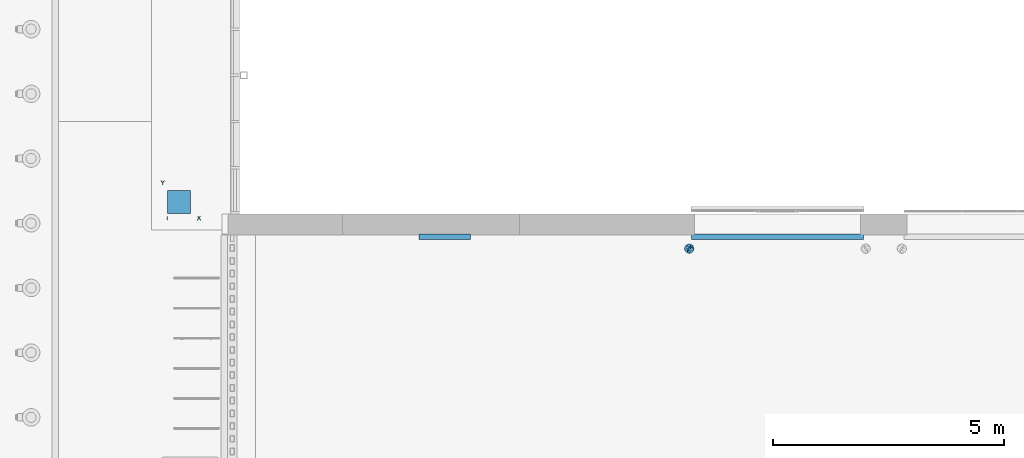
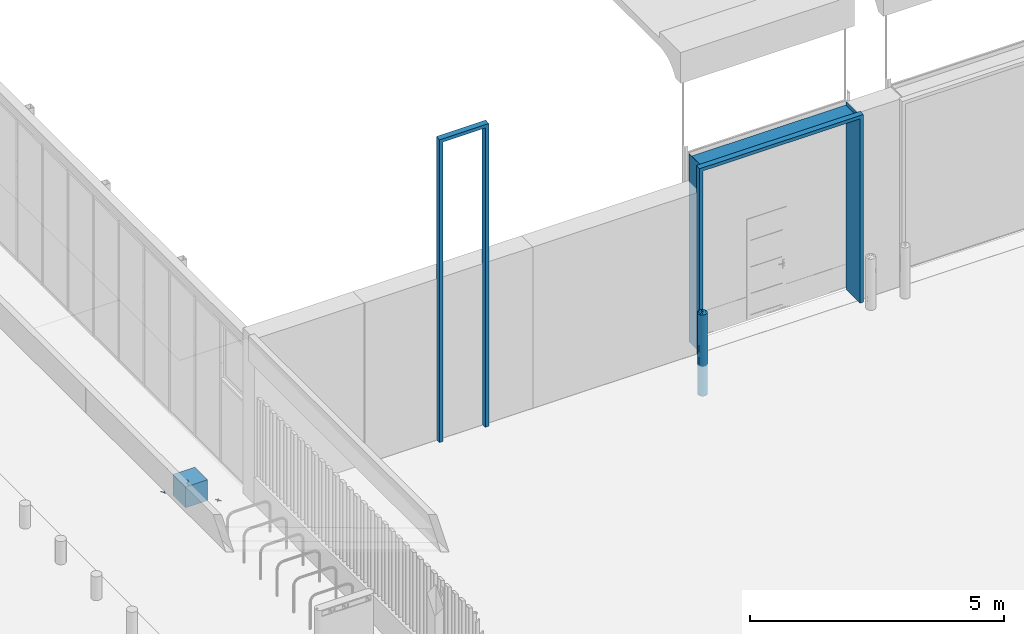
# One storey, part 40 of 77: 4 discrete accessories.
"""IFC2X3 building model written with IfcOpenShell, lengths in millimetres."""

from ifc_helpers import new_model, entity, si_unit, converted_unit, derived_unit, direction, frame, frame_2d, origin, place, context, subcontext, project, spatial, polyline, rectangle, outline, extrude, faceted_brep, source, transform, mapped, material, type_object, type_shapes, element, save


model = new_model("IFC2X3")

# Units and contexts
model_context = context("Model", 3, precision=0.01, world=origin(), true_north=direction((6.12303176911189e-17, 1.0)))
body_context = subcontext(model_context, "Body", "Model", "MODEL_VIEW")
ifc_project = project(units=[si_unit("LENGTHUNIT", "METRE", prefix="MILLI"), si_unit("AREAUNIT", "SQUARE_METRE"), si_unit("VOLUMEUNIT", "CUBIC_METRE"), converted_unit("PLANEANGLEUNIT", "DEGREE", entity("IfcRatioMeasure", 0.0174532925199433), si_unit("PLANEANGLEUNIT", "RADIAN"), dimensions=[0, 0, 0, 0, 0, 0, 0]), si_unit("MASSUNIT", "GRAM", prefix="KILO"), derived_unit("MASSDENSITYUNIT", [(si_unit("MASSUNIT", "GRAM", prefix="KILO"), 1), (si_unit("LENGTHUNIT", "METRE"), -3)]), si_unit("TIMEUNIT", "SECOND"), si_unit("FREQUENCYUNIT", "HERTZ"), si_unit("THERMODYNAMICTEMPERATUREUNIT", "DEGREE_CELSIUS"), derived_unit("THERMALTRANSMITTANCEUNIT", [(si_unit("MASSUNIT", "GRAM", prefix="KILO"), 1), (si_unit("THERMODYNAMICTEMPERATUREUNIT", "KELVIN"), -1), (si_unit("TIMEUNIT", "SECOND"), -3)]), derived_unit("VOLUMETRICFLOWRATEUNIT", [(si_unit("LENGTHUNIT", "METRE"), 3), (si_unit("TIMEUNIT", "SECOND"), -1)]), si_unit("ELECTRICCURRENTUNIT", "AMPERE"), si_unit("ELECTRICVOLTAGEUNIT", "VOLT"), si_unit("POWERUNIT", "WATT"), si_unit("FORCEUNIT", "NEWTON", prefix="KILO"), si_unit("ILLUMINANCEUNIT", "LUX"), si_unit("LUMINOUSFLUXUNIT", "LUMEN"), si_unit("LUMINOUSINTENSITYUNIT", "CANDELA"), derived_unit("USERDEFINED", [(si_unit("MASSUNIT", "GRAM", prefix="KILO"), -1), (si_unit("LENGTHUNIT", "METRE"), -2), (si_unit("TIMEUNIT", "SECOND"), 3), (si_unit("LUMINOUSFLUXUNIT", "LUMEN"), 1)]), derived_unit("LINEARVELOCITYUNIT", [(si_unit("LENGTHUNIT", "METRE"), 1), (si_unit("TIMEUNIT", "SECOND"), -1)]), si_unit("PRESSUREUNIT", "PASCAL"), derived_unit("USERDEFINED", [(si_unit("LENGTHUNIT", "METRE"), -2), (si_unit("MASSUNIT", "GRAM", prefix="KILO"), 1), (si_unit("TIMEUNIT", "SECOND"), -2)])], contexts=[model_context])

# Site, building, storey
site_placement = place(None, origin())
site = spatial("IfcSite", under=ifc_project, at=site_placement, Name="Default", CompositionType="ELEMENT")
building_placement = place(site_placement, origin())
building = spatial("IfcBuilding", under=site, at=building_placement, CompositionType="ELEMENT")
storey_placement = place(building_placement, origin())
storey = spatial("IfcBuildingStorey", under=building, at=storey_placement, Name="1. KORRUS", CompositionType="ELEMENT", Elevation=0.0)

# Discrete accessories
ifc_material = material(Name="Default New Material-must-varv")
discrete_accessory_type_1 = type_object("IfcDiscreteAccessoryType", Name="ukse-pollar", material=ifc_material)
shared_shape_1 = source(origin(), body_context, "Body", "Brep", [
    faceted_brep([(83.7498316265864, 0.0, 1211.3118064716), (91.8749158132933, 0.0, 1205.6559032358), (100.0, 0.0, 1200.0), (97.6882221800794, 13.1107435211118, 1200.0), (95.8287421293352, 23.6563789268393, 1200.0), (93.969262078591, 34.2020143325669, 1200.0), (76.9390417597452, 0.0, 1216.05282423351), (63.3022221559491, 75.4406506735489, 1200.0), (62.8416939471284, 39.8030161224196, 1218.4526620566), (69.2436158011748, 37.0764107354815, 1215.9880775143), (-97.6882221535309, 13.110743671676, 1200.0), (-100.0, 0.0, 1200.0), (-91.8749158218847, 0.0, 1205.65590322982), (-83.7498316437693, 0.0, 1211.31180645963), (-76.9390417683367, 0.0, 1216.05282422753), (-93.9692620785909, 34.2020143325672, 1200.0), (-95.8287421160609, 23.6563790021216, 1200.0), (61.6281008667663, 0.0, 1224.0406107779), (76.604444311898, 64.278760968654, 1200.0), (85.2868531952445, 49.2403876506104, 1200.0), (-3.54862814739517, 32.9400963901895, 1234.4920463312), (9.03191194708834, 0.0, 1237.09268012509), (4.40844307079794, 58.3778316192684, 1226.30016518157), (54.6170308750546, 47.6944043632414, 1219.50624940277), (44.627798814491, 0.0, 1230.53414834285), (25.5588463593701, 59.4119136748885, 1223.53680168), (33.6824088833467, 92.5416578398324, 1200.0), (17.3648177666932, 98.4807753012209, 1200.0), (-61.6281008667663, 0.0, 1224.0406107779), (-85.2868531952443, 49.2403876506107, 1200.0), (-70.128251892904, 0.0, 1220.79384199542), (36.1276477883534, 0.0, 1233.78091712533), (43.4209832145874, 50.3665618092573, 1222.6504135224), (70.128251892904, 0.0, 1220.79384199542), (-76.6044443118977, 64.2787609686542, 1200.0), (50.0, 86.6025403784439, 1200.0), (-50.0, 86.6025403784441, 1200.0), (-54.4185160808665, 48.7244133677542, 1219.21017541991), (-43.392270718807, 54.0995868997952, 1221.20165944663), (27.095735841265, 0.0, 1234.88483812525), (35.2622305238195, 66.2009236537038, 1218.09661192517), (-62.8416940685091, 39.8030246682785, 1218.45265938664), (-63.3022221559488, 75.4406506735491, 1200.0), (18.0638238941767, 0.0, 1235.98875912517), (18.4754636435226, 34.2574490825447, 1233.0588958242), (-69.2436179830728, 37.0764202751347, 1215.98807356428), (-53.1279498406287, 0.0, 1227.28737956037), (15.0400910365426, 63.9380091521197, 1223.05106581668), (0.0, 98.4807753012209, 1200.0), (-33.6824088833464, 92.5416578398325, 1200.0), (-31.0939161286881, 53.155099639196, 1224.97270928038), (-21.496736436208, 71.3818883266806, 1218.36002279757), (-27.095735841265, 0.0, 1234.88483812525), (-36.1276477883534, 0.0, 1233.78091712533), (-13.9644320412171, 48.8776365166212, 1229.32055829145), (53.1279498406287, 0.0, 1227.28737956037), (-44.627798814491, 0.0, 1230.53414834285), (-18.0638238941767, 0.0, 1235.98875912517), (-9.03191194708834, 0.0, 1237.09268012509), (-9.80597558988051, 78.5292492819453, 1215.62108797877), (-17.3648177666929, 98.480775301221, 1200.0), (0.0, 0.0, 1238.19660112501), (-97.6882221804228, -13.1107435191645, 1200.0), (-95.8287421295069, -23.6563789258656, 1200.0), (-93.9692620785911, -34.2020143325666, 1200.0), (-63.3022221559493, -75.4406506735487, 1200.0), (-62.8416938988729, -39.8030161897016, 1218.45266205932), (-69.2436157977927, -37.076410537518, 1215.98807757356), (97.6882221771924, -13.110743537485, 1200.0), (93.9692620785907, -34.2020143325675, 1200.0), (95.8287421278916, -23.6563789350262, 1200.0), (-76.6044443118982, -64.2787609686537, 1200.0), (-85.2868531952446, -49.2403876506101, 1200.0), (3.54862829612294, -32.9400954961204, 1234.4920465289), (-4.40844201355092, -58.3778322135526, 1226.30016496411), (-54.6170308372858, -47.6944042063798, 1219.50624947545), (-25.5588462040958, -59.4119134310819, 1223.53680181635), (-33.682408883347, -92.5416578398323, 1200.0), (-17.3648177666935, -98.4807753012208, 1200.0), (-43.4209830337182, -50.3665619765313, 1222.65041351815), (-50.0, -86.6025403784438, 1200.0), (62.8416939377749, -39.803016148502, 1218.45266205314), (54.4185175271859, -48.7244091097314, 1219.21017640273), (63.3022221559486, -75.4406506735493, 1200.0), (85.2868531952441, -49.240387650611, 1200.0), (76.6044443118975, -64.2787609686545, 1200.0), (50.0, -86.6025403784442, 1200.0), (43.3922717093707, -54.0995849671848, 1221.20165990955), (-35.2622303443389, -66.2009242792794, 1218.09661165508), (-18.475463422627, -34.2574489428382, 1233.05889588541), (69.2436157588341, -37.0764105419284, 1215.98807759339), (-15.0400904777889, -63.9380089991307, 1223.05106595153), (0.0, -98.4807753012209, 1200.0), (33.6824088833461, -92.5416578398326, 1200.0), (31.0939160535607, -53.155100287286, 1224.97270904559), (21.4967358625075, -71.3818881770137, 1218.3600229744), (13.9644325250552, -48.8776338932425, 1229.32055915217), (9.80597229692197, -78.5292495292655, 1215.62108807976), (17.3648177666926, -98.480775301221, 1200.0), (0.0, 0.0, 1200.0)], [[[0, 1, 2, 3, 4, 5, 6]], [[7, 8, 9]], [[10, 11, 12, 13, 14, 15, 16]], [[9, 17, 18]], [[17, 19, 18]], [[20, 21, 22]], [[8, 23, 24]], [[25, 26, 27]], [[28, 29, 30]], [[19, 6, 5]], [[31, 23, 32]], [[14, 30, 29]], [[6, 19, 33]], [[29, 28, 34]], [[32, 23, 35]], [[36, 37, 38]], [[39, 32, 40]], [[29, 15, 14]], [[41, 37, 42]], [[43, 44, 21]], [[33, 19, 17]], [[45, 28, 46]], [[42, 37, 36]], [[45, 46, 41]], [[25, 43, 39]], [[47, 22, 44]], [[26, 40, 35]], [[47, 27, 48]], [[49, 50, 51]], [[52, 38, 53]], [[22, 54, 20]], [[39, 31, 32]], [[25, 40, 26]], [[24, 55, 8]], [[35, 23, 7]], [[23, 31, 24]], [[9, 8, 55]], [[23, 8, 7]], [[37, 41, 56]], [[51, 50, 54]], [[38, 52, 50]], [[57, 50, 52]], [[50, 57, 54]], [[38, 49, 36]], [[54, 57, 58]], [[48, 59, 22]], [[38, 37, 53]], [[49, 38, 50]], [[56, 41, 46]], [[56, 53, 37]], [[45, 42, 34]], [[17, 9, 55]], [[7, 9, 18]], [[42, 45, 41]], [[28, 45, 34]], [[47, 44, 25]], [[25, 44, 43]], [[22, 21, 44]], [[25, 27, 47]], [[51, 59, 60]], [[47, 48, 22]], [[39, 40, 25]], [[35, 40, 32]], [[58, 20, 54]], [[20, 58, 61]], [[21, 20, 61]], [[59, 51, 54]], [[49, 51, 60]], [[22, 59, 54]], [[48, 60, 59]], [[13, 12, 11, 62, 63, 64, 14]], [[65, 66, 67]], [[68, 2, 1, 0, 6, 69, 70]], [[67, 28, 71]], [[28, 72, 71]], [[73, 58, 74]], [[66, 75, 56]], [[76, 77, 78]], [[79, 75, 80]], [[53, 75, 79]], [[81, 82, 83]], [[6, 84, 69]], [[84, 17, 85]], [[86, 82, 87]], [[17, 84, 33]], [[52, 79, 88]], [[33, 84, 6]], [[72, 14, 64]], [[57, 89, 58]], [[14, 72, 30]], [[30, 72, 28]], [[90, 17, 55]], [[83, 82, 86]], [[90, 55, 81]], [[76, 57, 52]], [[91, 74, 89]], [[77, 88, 80]], [[91, 78, 92]], [[93, 94, 95]], [[39, 87, 31]], [[74, 96, 73]], [[52, 53, 79]], [[76, 88, 77]], [[56, 46, 66]], [[80, 75, 65]], [[75, 53, 56]], [[67, 66, 46]], [[75, 66, 65]], [[82, 81, 24]], [[95, 94, 96]], [[87, 39, 94]], [[43, 94, 39]], [[94, 43, 96]], [[87, 93, 86]], [[96, 43, 21]], [[92, 97, 74]], [[87, 82, 31]], [[93, 87, 94]], [[24, 81, 55]], [[24, 31, 82]], [[90, 83, 85]], [[28, 67, 46]], [[65, 67, 71]], [[83, 90, 81]], [[17, 90, 85]], [[91, 89, 76]], [[76, 89, 57]], [[74, 58, 89]], [[76, 78, 91]], [[95, 97, 98]], [[91, 92, 74]], [[52, 88, 76]], [[80, 88, 79]], [[21, 73, 96]], [[73, 21, 61]], [[58, 73, 61]], [[97, 95, 96]], [[93, 95, 98]], [[74, 97, 96]], [[92, 98, 97]], [[99, 15, 29]], [[99, 29, 34]], [[99, 34, 42]], [[99, 42, 36]], [[99, 36, 49]], [[99, 49, 60]], [[99, 60, 48]], [[99, 16, 15]], [[99, 10, 16]], [[99, 11, 10]], [[99, 48, 27]], [[99, 27, 26]], [[99, 26, 35]], [[99, 35, 7]], [[99, 7, 18]], [[99, 18, 19]], [[99, 19, 5]], [[99, 5, 4]], [[99, 4, 3]], [[99, 3, 2]], [[99, 2, 68]], [[99, 62, 11]], [[99, 63, 62]], [[99, 64, 63]], [[99, 72, 64]], [[99, 71, 72]], [[99, 65, 71]], [[99, 80, 65]], [[99, 77, 80]], [[99, 78, 77]], [[99, 68, 70]], [[99, 70, 69]], [[99, 69, 84]], [[99, 84, 85]], [[99, 85, 83]], [[99, 83, 86]], [[99, 86, 93]], [[99, 93, 98]], [[99, 98, 92]], [[99, 92, 78]]]),
    faceted_brep([(25.8819045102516, -96.592582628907, 1200.0), (50.0, -86.6025403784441, 1200.0), (70.7106781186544, -70.7106781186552, 1200.0), (86.6025403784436, -50.0, 1200.0), (96.5925826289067, -25.8819045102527, 1200.0), (100.0, 0.0, 1200.0), (96.5925826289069, 25.8819045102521, 1200.0), (86.6025403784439, 50.0, 1200.0), (70.7106781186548, 70.7106781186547, 1200.0), (50.0, 86.6025403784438, 1200.0), (25.8819045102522, 96.5925826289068, 1200.0), (0.0, 100.0, 1200.0), (-25.8819045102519, 96.5925826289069, 1200.0), (-50.0, 86.602540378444, 1200.0), (-70.7106781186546, 70.7106781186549, 1200.0), (-86.6025403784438, 50.0, 1200.0), (-96.5925826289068, 25.8819045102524, 1200.0), (-100.0, 0.0, 1200.0), (-96.5925826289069, -25.8819045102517, 1200.0), (-86.6025403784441, -50.0, 1200.0), (-70.710678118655, -70.7106781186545, 1200.0), (-50.0, -86.6025403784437, 1200.0), (-25.8819045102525, -96.5925826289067, 1200.0), (0.0, -100.0, 1200.0), (0.0, 100.0, -750.0), (25.8819045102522, 96.5925826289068, -750.0), (50.0, 86.6025403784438, -750.0), (70.7106781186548, 70.7106781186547, -750.0), (86.6025403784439, 50.0, -750.0), (96.5925826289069, 25.8819045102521, -750.0), (100.0, 0.0, -750.0), (96.5925826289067, -25.8819045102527, -750.0), (86.6025403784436, -50.0, -750.0), (70.7106781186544, -70.7106781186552, -750.0), (50.0, -86.6025403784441, -750.0), (25.8819045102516, -96.592582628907, -750.0), (0.0, -100.0, -750.0), (-25.8819045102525, -96.5925826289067, -750.0), (-50.0, -86.6025403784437, -750.0), (-70.710678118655, -70.7106781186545, -750.0), (-86.6025403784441, -50.0, -750.0), (-96.5925826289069, -25.8819045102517, -750.0), (-100.0, 0.0, -750.0), (-96.5925826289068, 25.8819045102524, -750.0), (-86.6025403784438, 50.0, -750.0), (-70.7106781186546, 70.7106781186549, -750.0), (-50.0, 86.602540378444, -750.0), (-25.8819045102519, 96.5925826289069, -750.0), (-79.3353340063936, -60.8761429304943, 225.0), (-95.1291375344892, -30.8293235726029, 225.0), (-92.387953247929, -38.2683432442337, -285.980854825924), (-38.2683432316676, -92.3879532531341, -299.59510263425), (-60.8761428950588, -79.3353340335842, -151.214692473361), (55.4391010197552, -83.225633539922, 225.0), (79.335334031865, -60.8761428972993, 225.0), (60.8761429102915, -79.3353340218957, 601.214692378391), (-79.3353340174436, -60.8761429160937, 749.595102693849), (-13.0526192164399, -99.1444861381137, -151.214692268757), (13.0526192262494, -99.1444861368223, -269.40187286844), (4.65337325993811, -99.8916719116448, 225.0), (-19.6480455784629, -98.0507741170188, 225.0), (-38.2683432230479, -92.3879532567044, 749.595102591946), (-38.2683432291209, -92.387953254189, 225.0), (-79.3353340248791, -60.8761429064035, -299.595102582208), (-60.876142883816, -79.3353340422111, 601.214692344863), (79.335334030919, -60.8761428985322, -299.595102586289), (60.8761429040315, -79.3353340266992, -151.214692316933), (-98.5078583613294, -17.2105154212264, -334.254320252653), (-100.0, 0.0, 501.660929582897), (-100.0, 0.0, -51.6552314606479), (-92.3879532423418, -38.2683432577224, 735.980854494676), (-98.507858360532, -17.2105154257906, 784.254320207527), (100.0, 0.0, 501.659108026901), (95.1291375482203, -30.8293235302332, 225.0), (100.0, 0.0, -51.6591080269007), (-55.4391010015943, -83.2256335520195, 225.0), (38.2683432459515, -92.3879532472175, 749.595102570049), (-13.0526192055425, -99.1444861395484, 601.214692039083), (38.2683432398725, -92.3879532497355, -299.595102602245), (92.3879532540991, -38.2683432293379, 735.980854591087), (92.3879532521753, -38.2683432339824, -285.980854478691), (79.335334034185, -60.8761428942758, 749.595102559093), (98.5078583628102, -17.2105154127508, 784.254320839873), (13.0526192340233, -99.1444861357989, 719.401872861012), (98.5078583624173, -17.2105154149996, -334.254320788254), (38.268343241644, -92.3879532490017, 225.0), (98.5078583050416, 17.210515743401, -334.254323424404), (-79.3353340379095, 60.8761428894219, -299.595102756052), (-60.876142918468, 79.3353340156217, -151.214692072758), (79.3353338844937, 60.8761430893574, -299.595101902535), (13.0526191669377, 99.1444861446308, -151.214692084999), (38.2683431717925, 92.3879532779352, -299.595102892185), (19.6480455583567, 98.0507741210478, 225.0), (38.2683431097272, 92.3879533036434, 749.595103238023), (38.2683431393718, 92.3879532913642, 225.0), (-13.0526193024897, 99.1444861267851, 719.401872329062), (66.0410934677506, 75.0904386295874, 225.000002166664), (60.8761427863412, 79.3353341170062, -151.214692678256), (-13.0526192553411, 99.1444861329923, -269.401871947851), (-4.6533732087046, 99.8916719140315, 224.999998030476), (95.1291373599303, 30.829324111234, 225.000013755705), (-92.3879532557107, 38.2683432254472, -285.980854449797), (-98.5078583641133, 17.210515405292, -334.254320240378), (-95.1291375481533, 30.8293235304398, 225.0), (79.3353338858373, 60.8761430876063, 749.595105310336), (92.3879530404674, 38.2683437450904, -285.980851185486), (79.3353338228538, 60.876143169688, 225.000002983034), (-38.2683432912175, 92.3879532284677, 749.595102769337), (92.38795316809, 38.2683434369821, 735.980862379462), (60.8761427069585, 79.3353341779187, 601.214694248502), (13.0526190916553, 99.144486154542, 601.214690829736), (-55.4391010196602, 83.2256335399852, 225.0), (-79.3353340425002, 60.8761428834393, 225.0), (-60.8761429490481, 79.3353339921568, 601.214692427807), (-38.2683432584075, 92.387953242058, -299.595102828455), (-92.3879532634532, 38.268343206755, 735.980854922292), (-79.3353340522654, 60.8761428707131, 749.59510268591), (-98.5078583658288, 17.2105153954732, 784.254320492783), (98.5078583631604, 17.2105154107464, 784.25432452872), (-38.2683432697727, 92.3879532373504, 225.0)], [[[0, 1, 2, 3, 4, 5, 6, 7, 8, 9, 10, 11, 12, 13, 14, 15, 16, 17, 18, 19, 20, 21, 22, 23]], [[24, 25, 26, 27, 28, 29, 30, 31, 32, 33, 34, 35, 36, 37, 38, 39, 40, 41, 42, 43, 44, 45, 46, 47]], [[48, 49, 50]], [[51, 52, 38]], [[53, 54, 55]], [[56, 20, 19]], [[38, 37, 51]], [[57, 58, 59]], [[51, 60, 61, 62]], [[63, 52, 48]], [[64, 56, 48]], [[65, 66, 33]], [[57, 60, 51]], [[41, 40, 50]], [[41, 67, 42]], [[68, 69, 49]], [[40, 39, 63]], [[66, 34, 33]], [[49, 70, 71]], [[72, 73, 74]], [[57, 37, 36]], [[75, 61, 64]], [[1, 0, 76]], [[20, 64, 21]], [[22, 21, 61]], [[61, 77, 22]], [[75, 51, 62, 61]], [[35, 34, 78]], [[58, 36, 35]], [[75, 48, 52]], [[33, 32, 65]], [[54, 73, 79]], [[65, 80, 54]], [[79, 81, 54]], [[79, 82, 4]], [[50, 67, 41]], [[56, 64, 20]], [[4, 82, 5]], [[23, 22, 77]], [[77, 83, 23]], [[31, 80, 32]], [[39, 38, 52]], [[17, 68, 71]], [[42, 67, 69]], [[54, 81, 55]], [[66, 65, 54]], [[30, 74, 84]], [[5, 82, 72]], [[66, 53, 78]], [[55, 2, 1]], [[80, 84, 73]], [[70, 19, 18]], [[3, 2, 81]], [[56, 70, 48]], [[50, 63, 48]], [[36, 58, 57]], [[0, 23, 83]], [[79, 4, 3]], [[76, 55, 1]], [[53, 76, 85, 78]], [[78, 58, 35]], [[85, 83, 59]], [[77, 60, 59]], [[76, 83, 85]], [[58, 78, 85]], [[50, 40, 63]], [[67, 49, 69]], [[71, 70, 18]], [[48, 70, 49]], [[79, 3, 81]], [[82, 73, 72]], [[84, 80, 31]], [[54, 80, 73]], [[57, 51, 37]], [[64, 61, 21]], [[66, 78, 34]], [[83, 76, 0]], [[70, 56, 19]], [[52, 63, 39]], [[80, 65, 32]], [[55, 81, 2]], [[85, 59, 58]], [[83, 77, 59]], [[49, 67, 50]], [[17, 71, 18]], [[49, 71, 68]], [[73, 82, 79]], [[30, 84, 31]], [[73, 84, 74]], [[59, 60, 57]], [[61, 60, 77]], [[48, 75, 64]], [[51, 75, 52]], [[54, 53, 66]], [[76, 53, 55]], [[86, 30, 29]], [[87, 88, 45]], [[28, 27, 89]], [[90, 25, 24]], [[26, 25, 91]], [[91, 92, 93, 94]], [[12, 11, 95]], [[96, 89, 97]], [[90, 98, 99]], [[91, 90, 92]], [[74, 100, 72]], [[101, 102, 103]], [[88, 46, 45]], [[97, 27, 26]], [[8, 7, 104]], [[100, 105, 106]], [[13, 12, 107]], [[7, 6, 108]], [[109, 94, 93]], [[97, 91, 94]], [[10, 9, 93]], [[109, 9, 8]], [[28, 105, 29]], [[93, 110, 10]], [[111, 112, 113]], [[47, 46, 114]], [[96, 104, 106, 89]], [[104, 109, 8]], [[45, 44, 87]], [[112, 103, 115]], [[91, 97, 26]], [[87, 101, 112]], [[115, 116, 112]], [[105, 86, 29]], [[96, 94, 109]], [[16, 117, 17]], [[11, 10, 110]], [[110, 95, 11]], [[15, 14, 116]], [[115, 16, 15]], [[5, 72, 118]], [[112, 116, 113]], [[88, 87, 112]], [[104, 108, 106]], [[88, 111, 114]], [[113, 14, 13]], [[42, 69, 102]], [[17, 117, 68]], [[43, 101, 44]], [[108, 118, 100]], [[115, 117, 16]], [[24, 98, 90]], [[98, 24, 47]], [[68, 103, 69]], [[107, 113, 13]], [[111, 107, 119, 114]], [[114, 98, 47]], [[119, 95, 99]], [[110, 92, 99]], [[107, 95, 119]], [[98, 114, 119]], [[105, 28, 89]], [[86, 100, 74]], [[118, 108, 6]], [[106, 108, 100]], [[115, 15, 116]], [[117, 103, 68]], [[102, 101, 43]], [[112, 101, 103]], [[97, 89, 27]], [[105, 89, 106]], [[108, 104, 7]], [[90, 91, 25]], [[109, 93, 9]], [[88, 114, 46]], [[95, 107, 12]], [[101, 87, 44]], [[113, 116, 14]], [[119, 99, 98]], [[95, 110, 99]], [[100, 86, 105]], [[30, 86, 74]], [[5, 118, 6]], [[100, 118, 72]], [[103, 117, 115]], [[42, 102, 43]], [[103, 102, 69]], [[94, 96, 97]], [[104, 96, 109]], [[99, 92, 90]], [[93, 92, 110]], [[112, 111, 88]], [[107, 111, 113]]]),
])
type_shapes(discrete_accessory_type_1, [shared_shape_1])
discrete_accessory_1_placement = place(storey_placement, frame((11290.0321791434, -750.0, 0.0)))
element("IfcDiscreteAccessory", 1, at=discrete_accessory_1_placement, inside=storey, type_object=discrete_accessory_type_1, material=ifc_material, Name="ukse-pollar:ukse-pollar", ObjectType="ukse-pollar", context=body_context, shape_type="MappedRepresentation", body=[
    mapped(shared_shape_1, transform((0.0, 0.0, 0.0), scale=1.0)),
])
discrete_accessory_type_2 = type_object("IfcDiscreteAccessoryType", Name="akna-ylaplekid1000", material=ifc_material)
shared_shape_2 = source(origin(), body_context, "Body", "Brep", [
    faceted_brep([(80.0, 120.0, 0.0), (80.0, 0.0, 0.0), (76.0, 0.0, 0.0), (76.0, 116.0, 0.0), (4.0, 116.0, 0.0), (4.0, 0.0, 0.0), (0.0, 0.0, 0.0), (0.0, 120.0, 0.0), (80.0, 116.0, 7184.0), (80.0, 116.0, 7256.31946847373), (80.0, 0.0, 7265.9861351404), (80.0, 0.0, 7184.0), (80.0, 0.0, 7180.0), (1040.0, 0.0, 7180.0), (1040.0, 0.0, 0.0), (1044.0, 0.0, 0.0), (1044.0, 0.0, 7265.9861351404), (1116.0, 0.0, 7265.9861351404), (1116.0, 0.0, 0.0), (1120.0, 0.0, 0.0), (1120.0, 0.0, 7270.0), (0.0, 0.0, 7270.0), (4.0, 0.0, 7265.9861351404), (76.0, 0.0, 7265.9861351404), (1040.0, 0.0, 7184.0), (1040.0, 0.0, 7265.9861351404), (76.0, 116.0, 7256.31946847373), (4.0, 116.0, 7256.31946847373), (0.0, 120.0, 7260.0), (1120.0, 120.0, 7260.0), (1120.0, 120.0, 0.0), (1040.0, 120.0, 0.0), (1040.0, 120.0, 7180.0), (80.0, 120.0, 7180.0), (1040.0, 116.0, 7184.0), (1040.0, 116.0, 7256.31946847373), (1116.0, 116.0, 0.0), (1044.0, 116.0, 0.0), (1044.0, 116.0, 7256.31946847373), (1116.0, 116.0, 7256.31946847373)], [[[0, 1, 2, 3, 4, 5, 6, 7]], [[8, 9, 10, 11]], [[1, 12, 13, 14, 15, 16, 17, 18, 19, 20, 21, 6, 5, 22, 23, 2], [24, 11, 10, 25]], [[2, 23, 26, 3]], [[3, 26, 27, 4]], [[4, 27, 22, 5]], [[6, 21, 28, 7]], [[7, 28, 29, 30, 31, 32, 33, 0]], [[20, 29, 28, 21]], [[34, 35, 9, 8]], [[8, 11, 24, 34]], [[32, 13, 12, 33]], [[31, 30, 19, 18, 36, 37, 15, 14]], [[24, 25, 35, 34]], [[37, 38, 16, 15]], [[36, 39, 38, 37]], [[18, 17, 39, 36]], [[30, 29, 20, 19]], [[22, 27, 26, 23]], [[10, 9, 35, 25]], [[16, 38, 39, 17]], [[14, 13, 32, 31]], [[0, 33, 12, 1]]]),
])
type_shapes(discrete_accessory_type_2, [shared_shape_2])
discrete_accessory_2_placement = place(storey_placement, frame((6560.02418442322, -430.0, 0.0), z_axis=(0.0, 0.0, 1.0), x_axis=(-1.0, 0.0, 0.0)))
element("IfcDiscreteAccessory", 2, at=discrete_accessory_2_placement, inside=storey, type_object=discrete_accessory_type_2, material=ifc_material, Name="akna-ylaplekid_2k-A:akna-ylaplekid1000", ObjectType="akna-ylaplekid1000", context=body_context, shape_type="MappedRepresentation", body=[
    mapped(shared_shape_2, transform((0.0, 0.0, 0.0), scale=1.0)),
])
discrete_accessory_type_3 = type_object("IfcDiscreteAccessoryType", Name="akna-ylaplekid3600", material=ifc_material)
shared_shape_3 = source(origin(), body_context, "Body", "Brep", [
    faceted_brep([(-1780.0, 280.0, -440.0), (-1780.0, -270.0, -440.0), (-1784.0, -270.0, -440.0), (-1784.0, 276.0, -440.0), (-1856.0, 276.0, -440.0), (-1856.0, 160.0, -440.0), (-1860.0, 160.0, -440.0), (-1860.0, 280.0, -440.0), (-1780.0, -270.0, 4070.0), (-1780.0, -270.0, 3984.0), (-1780.0, 276.0, 3984.0), (-1780.0, 276.0, 4056.31946847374), (-1780.0, 160.0, 4065.9861351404), (-1780.0, 160.0, 4070.0), (-1784.0, -270.0, 4070.0), (-1780.0, -270.0, 3980.0), (1780.0, -270.0, 3980.0), (1780.0, -270.0, -440.0), (1784.0, -270.0, -440.0), (1784.0, -270.0, 4070.0), (1780.0, -270.0, 4070.0), (1780.0, -270.0, 3984.0), (-1784.0, 160.0, 4070.0), (-1784.0, 160.0, 4065.9861351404), (-1784.0, 276.0, 4056.31946847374), (-1856.0, 276.0, 4056.31946847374), (-1856.0, 160.0, 4065.9861351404), (-1860.0, 160.0, 4070.0), (-1860.0, 280.0, 4060.0), (1860.0, 280.0, 4060.0), (1860.0, 280.0, -440.0), (1780.0, 280.0, -440.0), (1780.0, 280.0, 3980.0), (-1780.0, 280.0, 3980.0), (1780.0, 160.0, 4070.0), (1784.0, 160.0, 4070.0), (1860.0, 160.0, 4070.0), (1780.0, 276.0, 3984.0), (1780.0, 276.0, 4056.31946847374), (1860.0, 160.0, -440.0), (1856.0, 160.0, -440.0), (1856.0, 276.0, -440.0), (1784.0, 276.0, -440.0), (1780.0, 160.0, 4065.9861351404), (1784.0, 276.0, 4056.31946847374), (1784.0, 160.0, 4065.9861351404), (1856.0, 276.0, 4056.31946847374), (1856.0, 160.0, 4065.9861351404)], [[[0, 1, 2, 3, 4, 5, 6, 7]], [[8, 9, 10, 11, 12, 13]], [[14, 2, 1, 15, 16, 17, 18, 19, 20, 21, 9, 8]], [[2, 14, 22, 23, 24, 3]], [[3, 24, 25, 4]], [[4, 25, 26, 5]], [[6, 27, 28, 7]], [[7, 28, 29, 30, 31, 32, 33, 0]], [[13, 34, 35, 36, 29, 28, 27, 22]], [[37, 38, 11, 10]], [[10, 9, 21, 37]], [[32, 16, 15, 33]], [[31, 30, 39, 40, 41, 42, 18, 17]], [[34, 43, 38, 37, 21, 20]], [[42, 44, 45, 35, 19, 18]], [[41, 46, 44, 42]], [[40, 47, 46, 41]], [[30, 29, 36, 39]], [[26, 25, 24, 23]], [[8, 13, 22, 14]], [[39, 36, 35, 45, 47, 40]], [[19, 35, 34, 20]], [[13, 12, 43, 34]], [[5, 26, 23, 22, 27, 6]], [[12, 11, 38, 43]], [[45, 44, 46, 47]], [[17, 16, 32, 31]], [[0, 33, 15, 1]]]),
])
type_shapes(discrete_accessory_type_3, [shared_shape_3])
discrete_accessory_3_placement = place(storey_placement, frame((13200.0241844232, -270.0, 440.0), z_axis=(0.0, 0.0, 1.0), x_axis=(-1.0, 0.0, 0.0)))
element("IfcDiscreteAccessory", 3, at=discrete_accessory_3_placement, inside=storey, type_object=discrete_accessory_type_3, material=ifc_material, Name="akna-ylaplekid_5400-A:akna-ylaplekid3600", ObjectType="akna-ylaplekid3600", context=body_context, shape_type="MappedRepresentation", body=[
    mapped(shared_shape_3, transform((0.0, 0.0, 0.0), scale=1.0)),
])
discrete_accessory_type_4 = type_object("IfcDiscreteAccessoryType", Name="Reeper")
shared_shape_4 = source(origin(), body_context, "Body", "SweptSolid", [
    extrude(outline(polyline([(-49.8112221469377, -39.3265852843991), (-36.7881995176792, -39.3265852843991), (26.1196216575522, 12.0542667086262), (38.0880492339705, 21.8154023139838), (38.0880492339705, -33.0480659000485), (50.6450880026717, -33.0480659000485), (50.6450880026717, 37.5852771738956), (38.0880492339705, 37.5852771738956), (-30.7549347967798, -18.6516171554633), (-37.2541833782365, -23.9491178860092), (-37.2541833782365, 39.1549070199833), (-49.8112221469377, 39.1549070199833), (-49.8112221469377, -39.3265852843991)])), frame((-5.0, -94.1528045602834, 671.893166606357), z_axis=(1.0, 0.0, 0.0), x_axis=(0.0, 0.0, 1.0)), (0.0, 0.0, 1.0), 5.0),
    extrude(outline(polyline([(-46.2488981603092, -52.5933297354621), (-30.9695326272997, -52.5933297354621), (-5.78187869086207, -16.9333016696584), (0.128758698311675, -8.64369404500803), (5.49983582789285, -16.1975376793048), (31.3006264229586, -52.5933297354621), (46.3592627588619, -52.5933297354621), (7.63355139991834, 2.00035834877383), (40.0807433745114, 47.8629804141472), (24.8013778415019, 47.8629804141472), (6.72610914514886, 22.3074444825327), (-0.484377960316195, 12.1048504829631), (-6.6402700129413, 22.1357662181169), (-24.9117424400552, 47.8629804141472), (-39.9703787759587, 47.8629804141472), (-7.52318680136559, 2.14751114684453), (-46.2488981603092, -52.5933297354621)])), frame((682.387562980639, -91.9104286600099, 0.0)), (0.0, 0.0, 1.0), 5.0),
    extrude(outline(polyline([(-6.54161075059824, -61.8978178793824), (6.01542801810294, -61.8978178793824), (6.01542801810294, -19.3461337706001), (45.2561741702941, 38.558492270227), (30.4427924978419, 38.558492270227), (11.4355560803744, 8.76005066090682), (0.693401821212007, -8.1379956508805), (-10.0242269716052, 7.6318792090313), (-30.9689752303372, 38.558492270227), (-45.7823569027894, 38.558492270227), (-6.54161075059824, -19.3461337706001), (-6.54161075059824, -61.8978178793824)])), frame((-103.390647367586, 684.602024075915, 0.0)), (0.0, 0.0, 1.0), 5.0),
    extrude(rectangle(XDim=499.999999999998, YDim=500.0, at=frame_2d((4.12114786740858e-13, -1.98951966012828e-13), x_axis=(1.0, 0.0))), frame((250.0, 250.0, 0.0), z_axis=(0.0, 0.0, 1.0), x_axis=(0.0, -1.0, 0.0)), (0.0, 0.0, 1.0), 500.0),
])
type_shapes(discrete_accessory_type_4, [shared_shape_4])
discrete_accessory_4_placement = place(storey_placement, frame((0.0, 5.92845761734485, 0.0)))
element("IfcDiscreteAccessory", 4, at=discrete_accessory_4_placement, inside=storey, type_object=discrete_accessory_type_4, Name="Reeper:Reeper", ObjectType="Reeper", context=body_context, shape_type="MappedRepresentation", body=[
    mapped(shared_shape_4, transform((0.0, 0.0, 0.0), scale=1.0)),
])

save(model, "model.ifc")
